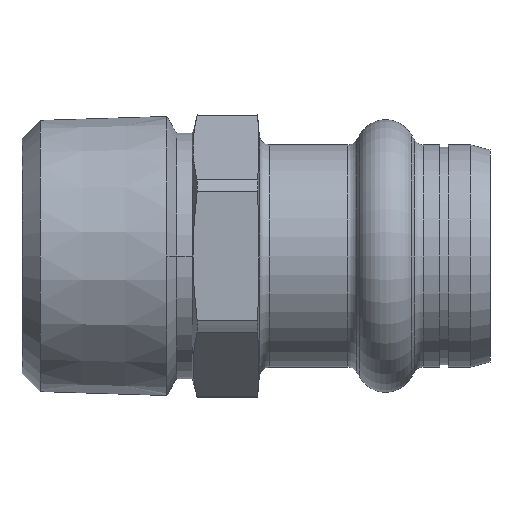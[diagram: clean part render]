
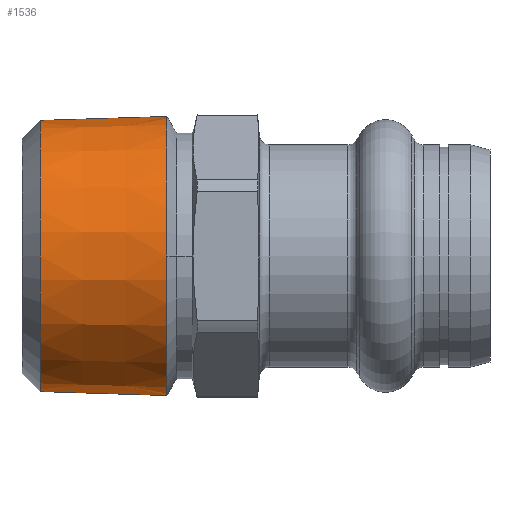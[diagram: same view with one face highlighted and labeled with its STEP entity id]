
A CAD part, left-side view. The second image highlights one B-rep face of the part: STEP entity #1536.
In plain terms, the highlighted conical face has half-angle 1.78 degrees and reference radius 13.407 mm.
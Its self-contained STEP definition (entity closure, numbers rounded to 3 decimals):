
#30 = AXIS2_PLACEMENT_3D ( 'NONE', #1308, #1291, #1341 ) ;
#57 = AXIS2_PLACEMENT_3D ( 'NONE', #932, #924, #916 ) ;
#104 = DIRECTION ( 'NONE',  ( 0., -1., 0. ) ) ;
#116 = CIRCLE ( 'NONE', #30, 13.356 ) ;
#128 = CARTESIAN_POINT ( 'NONE',  ( 0., 29.3, 0. ) ) ;
#143 = VECTOR ( 'NONE', #350, 1000. ) ;
#157 = DIRECTION ( 'NONE',  ( 0., 0., -1. ) ) ;
#224 = CIRCLE ( 'NONE', #57, 12.979 ) ;
#275 = CIRCLE ( 'NONE', #1113, 13.356 ) ;
#294 = CONICAL_SURFACE ( 'NONE', #1747, 13.407, 0.031 ) ;
#314 = EDGE_CURVE ( 'NONE', #1738, #1889, #1454, .T. ) ;
#333 = FACE_OUTER_BOUND ( 'NONE', #866, .T. ) ;
#350 = DIRECTION ( 'NONE',  ( 0., -1., -0.031 ) ) ;
#839 = DIRECTION ( 'NONE',  ( -1., 0., 0. ) ) ;
#843 = EDGE_CURVE ( 'NONE', #1738, #1236, #224, .T. ) ;
#845 = CARTESIAN_POINT ( 'NONE',  ( 0., 43.071, -12.979 ) ) ;
#846 = DIRECTION ( 'NONE',  ( 0., -1., 0. ) ) ;
#853 = EDGE_CURVE ( 'NONE', #1889, #1712, #275, .T. ) ;
#866 = EDGE_LOOP ( 'NONE', ( #2029, #1365, #1665, #1081, #1335 ) ) ;
#892 = CARTESIAN_POINT ( 'NONE',  ( 0., 30.927, 0. ) ) ;
#916 = DIRECTION ( 'NONE',  ( 0., 0., -1. ) ) ;
#924 = DIRECTION ( 'NONE',  ( 0., -1., 0. ) ) ;
#932 = CARTESIAN_POINT ( 'NONE',  ( 0., 43.071, 0. ) ) ;
#982 = CARTESIAN_POINT ( 'NONE',  ( 0., 29.3, -13.407 ) ) ;
#1018 = VECTOR ( 'NONE', #1069, 1000. ) ;
#1069 = DIRECTION ( 'NONE',  ( 0., -1., 0.031 ) ) ;
#1081 = ORIENTED_EDGE ( 'NONE', *, *, #1707, .F. ) ;
#1106 = CARTESIAN_POINT ( 'NONE',  ( 0., 43.071, 12.979 ) ) ;
#1113 = AXIS2_PLACEMENT_3D ( 'NONE', #892, #846, #839 ) ;
#1196 = CARTESIAN_POINT ( 'NONE',  ( 0., 30.927, 13.356 ) ) ;
#1236 = VERTEX_POINT ( 'NONE', #845 ) ;
#1291 = DIRECTION ( 'NONE',  ( 0., -1., 0. ) ) ;
#1298 = CARTESIAN_POINT ( 'NONE',  ( 0., 30.927, -13.356 ) ) ;
#1308 = CARTESIAN_POINT ( 'NONE',  ( 0., 30.927, 0. ) ) ;
#1319 = CARTESIAN_POINT ( 'NONE',  ( -13.356, 30.927, 0. ) ) ;
#1335 = ORIENTED_EDGE ( 'NONE', *, *, #853, .F. ) ;
#1341 = DIRECTION ( 'NONE',  ( -1., 0., 0. ) ) ;
#1365 = ORIENTED_EDGE ( 'NONE', *, *, #843, .T. ) ;
#1377 = CARTESIAN_POINT ( 'NONE',  ( 0., 29.3, 13.407 ) ) ;
#1454 = LINE ( 'NONE', #1377, #1018 ) ;
#1536 = ADVANCED_FACE ( 'NONE', ( #333 ), #294, .T. ) ;
#1665 = ORIENTED_EDGE ( 'NONE', *, *, #1920, .T. ) ;
#1707 = EDGE_CURVE ( 'NONE', #1712, #1723, #116, .T. ) ;
#1712 = VERTEX_POINT ( 'NONE', #1319 ) ;
#1723 = VERTEX_POINT ( 'NONE', #1298 ) ;
#1738 = VERTEX_POINT ( 'NONE', #1106 ) ;
#1747 = AXIS2_PLACEMENT_3D ( 'NONE', #128, #104, #157 ) ;
#1825 = LINE ( 'NONE', #982, #143 ) ;
#1889 = VERTEX_POINT ( 'NONE', #1196 ) ;
#1920 = EDGE_CURVE ( 'NONE', #1236, #1723, #1825, .T. ) ;
#2029 = ORIENTED_EDGE ( 'NONE', *, *, #314, .F. ) ;
